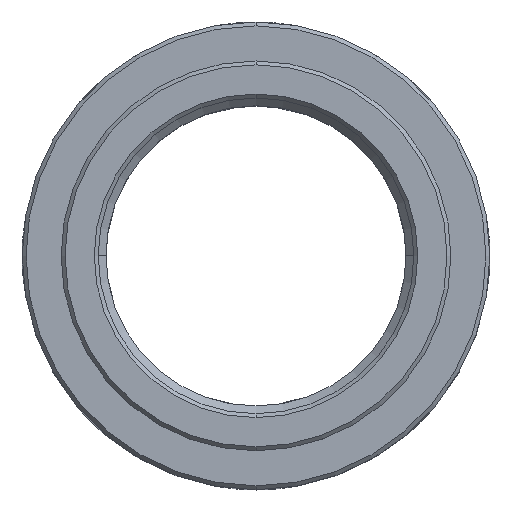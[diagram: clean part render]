
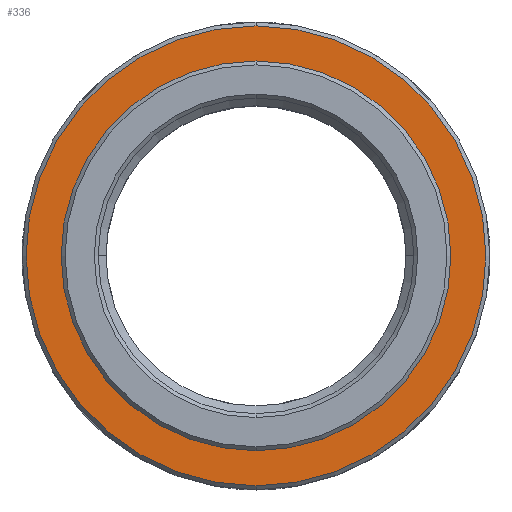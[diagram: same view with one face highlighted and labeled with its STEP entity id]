
A CAD part, top view. The second image highlights one B-rep face of the part: STEP entity #336.
In plain terms, the highlighted planar face has unit normal (0, 0, 1).
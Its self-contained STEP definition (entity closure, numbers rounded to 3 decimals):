
#228 = VERTEX_POINT ( 'NONE', #1421 ) ;
#232 = EDGE_CURVE ( 'NONE', #245, #228, #1372, .T. ) ;
#245 = VERTEX_POINT ( 'NONE', #1405 ) ;
#328 = ORIENTED_EDGE ( 'NONE', *, *, #469, .F. ) ;
#329 = ORIENTED_EDGE ( 'NONE', *, *, #554, .F. ) ;
#334 = ORIENTED_EDGE ( 'NONE', *, *, #232, .T. ) ;
#335 = EDGE_LOOP ( 'NONE', ( #328, #329 ) ) ;
#336 = ADVANCED_FACE ( 'NONE', ( #1715, #1722 ), #1700, .F. ) ;
#463 = VERTEX_POINT ( 'NONE', #1910 ) ;
#464 = VERTEX_POINT ( 'NONE', #1909 ) ;
#469 = EDGE_CURVE ( 'NONE', #463, #464, #2081, .T. ) ;
#477 = EDGE_LOOP ( 'NONE', ( #479, #334 ) ) ;
#479 = ORIENTED_EDGE ( 'NONE', *, *, #480, .T. ) ;
#480 = EDGE_CURVE ( 'NONE', #228, #245, #2107, .T. ) ;
#554 = EDGE_CURVE ( 'NONE', #464, #463, #2342, .T. ) ;
#1371 = CARTESIAN_POINT ( 'NONE',  ( 0., 0., 9. ) ) ;
#1372 = CIRCLE ( 'NONE', #1381, 29.5 ) ;
#1381 = AXIS2_PLACEMENT_3D ( 'NONE', #1371, #1408, #1407 ) ;
#1405 = CARTESIAN_POINT ( 'NONE',  ( 0., -29.5, 9. ) ) ;
#1407 = DIRECTION ( 'NONE',  ( 0., 1., 0. ) ) ;
#1408 = DIRECTION ( 'NONE',  ( 0., 0., 1. ) ) ;
#1421 = CARTESIAN_POINT ( 'NONE',  ( 0., 29.5, 9. ) ) ;
#1700 = PLANE ( 'NONE',  #1753 ) ;
#1715 = FACE_OUTER_BOUND ( 'NONE', #477, .T. ) ;
#1722 = FACE_BOUND ( 'NONE', #335, .T. ) ;
#1747 = CARTESIAN_POINT ( 'NONE',  ( 0., 30., 9. ) ) ;
#1753 = AXIS2_PLACEMENT_3D ( 'NONE', #1747, #1759, #1758 ) ;
#1758 = DIRECTION ( 'NONE',  ( 0., 1., 0. ) ) ;
#1759 = DIRECTION ( 'NONE',  ( 0., 0., -1. ) ) ;
#1909 = CARTESIAN_POINT ( 'NONE',  ( 0., 25., 9. ) ) ;
#1910 = CARTESIAN_POINT ( 'NONE',  ( 0., -25., 9. ) ) ;
#2077 = CARTESIAN_POINT ( 'NONE',  ( 0., 0., 9. ) ) ;
#2078 = AXIS2_PLACEMENT_3D ( 'NONE', #2077, #2100, #2099 ) ;
#2081 = CIRCLE ( 'NONE', #2078, 25. ) ;
#2099 = DIRECTION ( 'NONE',  ( 0., -1., 0. ) ) ;
#2100 = DIRECTION ( 'NONE',  ( 0., 0., 1. ) ) ;
#2107 = CIRCLE ( 'NONE', #2173, 29.5 ) ;
#2170 = DIRECTION ( 'NONE',  ( 0., 1., 0. ) ) ;
#2171 = DIRECTION ( 'NONE',  ( 0., 0., 1. ) ) ;
#2172 = CARTESIAN_POINT ( 'NONE',  ( 0., 0., 9. ) ) ;
#2173 = AXIS2_PLACEMENT_3D ( 'NONE', #2172, #2171, #2170 ) ;
#2335 = DIRECTION ( 'NONE',  ( 0., -1., 0. ) ) ;
#2336 = DIRECTION ( 'NONE',  ( 0., 0., 1. ) ) ;
#2337 = CARTESIAN_POINT ( 'NONE',  ( 0., 0., 9. ) ) ;
#2338 = AXIS2_PLACEMENT_3D ( 'NONE', #2337, #2336, #2335 ) ;
#2342 = CIRCLE ( 'NONE', #2338, 25. ) ;
